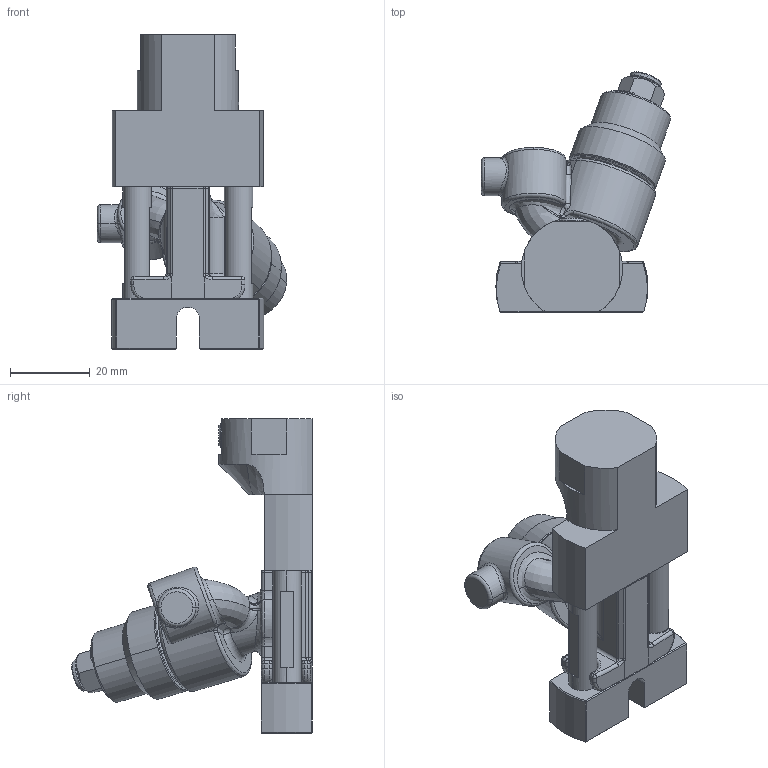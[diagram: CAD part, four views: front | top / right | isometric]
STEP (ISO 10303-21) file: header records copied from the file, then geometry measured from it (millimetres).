
FILE_DESCRIPTION((''),'2;1');
FILE_NAME('FXCC0001S-EN-C_PRT','2022-06-21T15:06:35',('qufmd1'),(''),'CREO PARAMETRIC BY PTC INC, 2021072','CREO PARAMETRIC BY PTC INC, 2021072','');
FILE_SCHEMA(('CONFIG_CONTROL_DESIGN'));
Length unit declared in the file: inch
Products named in the file (1): FXCC0001S-EN-C_PRT
Bounding box: 47.4 x 60.21 x 78.74 mm (x, y, z)
Surface area: 17640.9 mm2 (no closed solid volume)
Topology: 0 solids, 13 shells, 296 faces, 729 edges, 440 vertices
Faces by surface type: plane 83, cylinder 83, bspline 61, cone 29, torus 24, sphere 14, extrusion 2
Entity records: 12827 total; most frequent: CARTESIAN_POINT 6258, ORIENTED_EDGE 1401, DIRECTION 1301, EDGE_CURVE 729, AXIS2_PLACEMENT_3D 516, VERTEX_POINT 440, EDGE_LOOP 296, FACE_OUTER_BOUND 296
